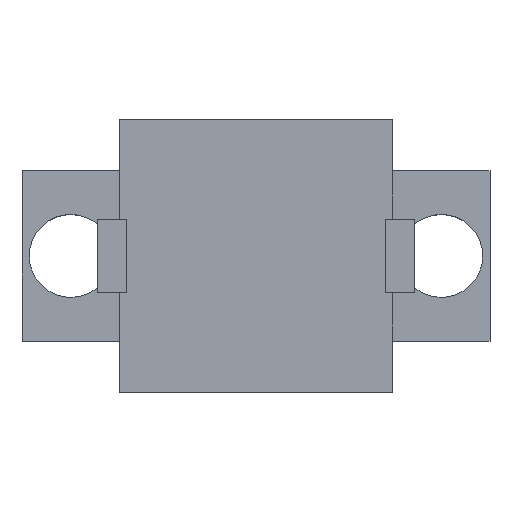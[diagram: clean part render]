
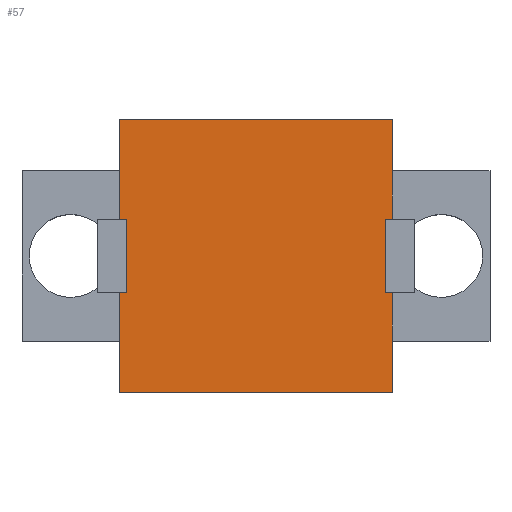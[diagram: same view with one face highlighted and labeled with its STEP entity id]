
A CAD part, top view. The second image highlights one B-rep face of the part: STEP entity #57.
In plain terms, the highlighted planar face has unit normal (0, 0, 1).
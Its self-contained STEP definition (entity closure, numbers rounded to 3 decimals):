
#21 = EDGE_CURVE('',#22,#24,#26,.T.);
#22 = VERTEX_POINT('',#23);
#23 = CARTESIAN_POINT('',(28.8,12.675,21.725));
#24 = VERTEX_POINT('',#25);
#25 = CARTESIAN_POINT('',(28.8,14.775,21.725));
#26 = LINE('',#27,#28);
#27 = CARTESIAN_POINT('',(28.8,12.675,21.725));
#28 = VECTOR('',#29,1.);
#29 = DIRECTION('',(0.,1.,0.));
#57 = ADVANCED_FACE('',(#58),#179,.T.);
#58 = FACE_BOUND('',#59,.T.);
#59 = EDGE_LOOP('',(#60,#61,#69,#77,#85,#93,#101,#109,#117,#125,#133,
    #141,#149,#157,#165,#173));
#60 = ORIENTED_EDGE('',*,*,#21,.F.);
#61 = ORIENTED_EDGE('',*,*,#62,.T.);
#62 = EDGE_CURVE('',#22,#63,#65,.T.);
#63 = VERTEX_POINT('',#64);
#64 = CARTESIAN_POINT('',(40.,12.675,21.725));
#65 = LINE('',#66,#67);
#66 = CARTESIAN_POINT('',(28.8,12.675,21.725));
#67 = VECTOR('',#68,1.);
#68 = DIRECTION('',(1.,0.,0.));
#69 = ORIENTED_EDGE('',*,*,#70,.T.);
#70 = EDGE_CURVE('',#63,#71,#73,.T.);
#71 = VERTEX_POINT('',#72);
#72 = CARTESIAN_POINT('',(40.,14.775,21.725));
#73 = LINE('',#74,#75);
#74 = CARTESIAN_POINT('',(40.,12.675,21.725));
#75 = VECTOR('',#76,1.);
#76 = DIRECTION('',(0.,1.,0.));
#77 = ORIENTED_EDGE('',*,*,#78,.T.);
#78 = EDGE_CURVE('',#71,#79,#81,.T.);
#79 = VERTEX_POINT('',#80);
#80 = CARTESIAN_POINT('',(40.,16.775,21.725));
#81 = LINE('',#82,#83);
#82 = CARTESIAN_POINT('',(40.,12.675,21.725));
#83 = VECTOR('',#84,1.);
#84 = DIRECTION('',(0.,1.,0.));
#85 = ORIENTED_EDGE('',*,*,#86,.T.);
#86 = EDGE_CURVE('',#79,#87,#89,.T.);
#87 = VERTEX_POINT('',#88);
#88 = CARTESIAN_POINT('',(39.7,16.775,21.725));
#89 = LINE('',#90,#91);
#90 = CARTESIAN_POINT('',(34.25,16.775,21.725));
#91 = VECTOR('',#92,1.);
#92 = DIRECTION('',(-1.,0.,0.));
#93 = ORIENTED_EDGE('',*,*,#94,.T.);
#94 = EDGE_CURVE('',#87,#95,#97,.T.);
#95 = VERTEX_POINT('',#96);
#96 = CARTESIAN_POINT('',(39.7,19.775,21.725));
#97 = LINE('',#98,#99);
#98 = CARTESIAN_POINT('',(39.7,14.725,21.725));
#99 = VECTOR('',#100,1.);
#100 = DIRECTION('',(0.,1.,0.));
#101 = ORIENTED_EDGE('',*,*,#102,.F.);
#102 = EDGE_CURVE('',#103,#95,#105,.T.);
#103 = VERTEX_POINT('',#104);
#104 = CARTESIAN_POINT('',(40.,19.775,21.725));
#105 = LINE('',#106,#107);
#106 = CARTESIAN_POINT('',(34.25,19.775,21.725));
#107 = VECTOR('',#108,1.);
#108 = DIRECTION('',(-1.,0.,0.));
#109 = ORIENTED_EDGE('',*,*,#110,.T.);
#110 = EDGE_CURVE('',#103,#111,#113,.T.);
#111 = VERTEX_POINT('',#112);
#112 = CARTESIAN_POINT('',(40.,21.775,21.725));
#113 = LINE('',#114,#115);
#114 = CARTESIAN_POINT('',(40.,12.675,21.725));
#115 = VECTOR('',#116,1.);
#116 = DIRECTION('',(0.,1.,0.));
#117 = ORIENTED_EDGE('',*,*,#118,.T.);
#118 = EDGE_CURVE('',#111,#119,#121,.T.);
#119 = VERTEX_POINT('',#120);
#120 = CARTESIAN_POINT('',(40.,23.875,21.725));
#121 = LINE('',#122,#123);
#122 = CARTESIAN_POINT('',(40.,12.675,21.725));
#123 = VECTOR('',#124,1.);
#124 = DIRECTION('',(0.,1.,0.));
#125 = ORIENTED_EDGE('',*,*,#126,.F.);
#126 = EDGE_CURVE('',#127,#119,#129,.T.);
#127 = VERTEX_POINT('',#128);
#128 = CARTESIAN_POINT('',(28.8,23.875,21.725));
#129 = LINE('',#130,#131);
#130 = CARTESIAN_POINT('',(28.8,23.875,21.725));
#131 = VECTOR('',#132,1.);
#132 = DIRECTION('',(1.,0.,0.));
#133 = ORIENTED_EDGE('',*,*,#134,.F.);
#134 = EDGE_CURVE('',#135,#127,#137,.T.);
#135 = VERTEX_POINT('',#136);
#136 = CARTESIAN_POINT('',(28.8,21.775,21.725));
#137 = LINE('',#138,#139);
#138 = CARTESIAN_POINT('',(28.8,12.675,21.725));
#139 = VECTOR('',#140,1.);
#140 = DIRECTION('',(0.,1.,0.));
#141 = ORIENTED_EDGE('',*,*,#142,.F.);
#142 = EDGE_CURVE('',#143,#135,#145,.T.);
#143 = VERTEX_POINT('',#144);
#144 = CARTESIAN_POINT('',(28.8,19.775,21.725));
#145 = LINE('',#146,#147);
#146 = CARTESIAN_POINT('',(28.8,12.675,21.725));
#147 = VECTOR('',#148,1.);
#148 = DIRECTION('',(0.,1.,0.));
#149 = ORIENTED_EDGE('',*,*,#150,.F.);
#150 = EDGE_CURVE('',#151,#143,#153,.T.);
#151 = VERTEX_POINT('',#152);
#152 = CARTESIAN_POINT('',(29.1,19.775,21.725));
#153 = LINE('',#154,#155);
#154 = CARTESIAN_POINT('',(28.35,19.775,21.725));
#155 = VECTOR('',#156,1.);
#156 = DIRECTION('',(-1.,0.,0.));
#157 = ORIENTED_EDGE('',*,*,#158,.F.);
#158 = EDGE_CURVE('',#159,#151,#161,.T.);
#159 = VERTEX_POINT('',#160);
#160 = CARTESIAN_POINT('',(29.1,16.775,21.725));
#161 = LINE('',#162,#163);
#162 = CARTESIAN_POINT('',(29.1,14.725,21.725));
#163 = VECTOR('',#164,1.);
#164 = DIRECTION('',(0.,1.,0.));
#165 = ORIENTED_EDGE('',*,*,#166,.T.);
#166 = EDGE_CURVE('',#159,#167,#169,.T.);
#167 = VERTEX_POINT('',#168);
#168 = CARTESIAN_POINT('',(28.8,16.775,21.725));
#169 = LINE('',#170,#171);
#170 = CARTESIAN_POINT('',(28.35,16.775,21.725));
#171 = VECTOR('',#172,1.);
#172 = DIRECTION('',(-1.,0.,0.));
#173 = ORIENTED_EDGE('',*,*,#174,.F.);
#174 = EDGE_CURVE('',#24,#167,#175,.T.);
#175 = LINE('',#176,#177);
#176 = CARTESIAN_POINT('',(28.8,12.675,21.725));
#177 = VECTOR('',#178,1.);
#178 = DIRECTION('',(0.,1.,0.));
#179 = PLANE('',#180);
#180 = AXIS2_PLACEMENT_3D('',#181,#182,#183);
#181 = CARTESIAN_POINT('',(28.8,12.675,21.725));
#182 = DIRECTION('',(0.,0.,1.));
#183 = DIRECTION('',(1.,0.,0.));
